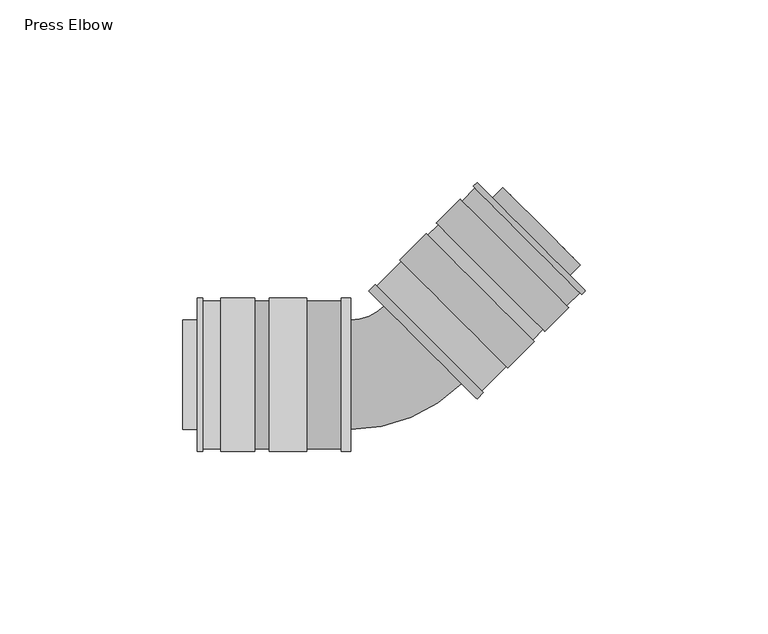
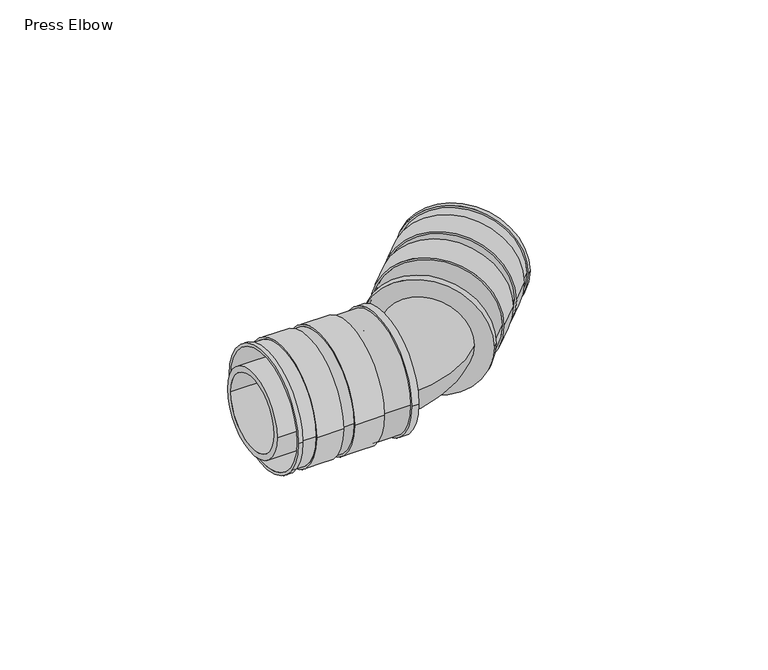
"""IFC4 building model written with IfcOpenShell, lengths in millimetres: pipe fitting geometry, Press Elbow : Superpipe Press Elbow."""

import ifcopenshell
import ifcopenshell.guid

model = None  # the IFC model being written
_history = None  # IfcOwnerHistory: only IFC2X3 demands one
_inside = {}  # id of a spatial element -> (the spatial element, [elements in it])
_under = {}  # id of a project, library or spatial element -> (it, [spatial elements below it])
_declared = {}  # id of a project -> (the project, [libraries it declares])
_typed = {}  # id of a type object -> (the type object, [elements of that type])
_made_of = {}  # id of a material, layer set ... -> (it, [elements and type objects made of it])


def new_model(schema):
    """Start an empty IFC model of exactly this schema.

    Asked for "IFC4X3", IfcOpenShell would pick the latest addendum, in which some entities
    have other attributes; the version numbers below select the first issue.
    IFC2X3 requires an IfcOwnerHistory on every rooted entity: one is made here for all.
    """
    global model, _history
    if schema == "IFC4X3":
        model = ifcopenshell.file(schema_version=(4, 3, 0, 0))
    else:
        model = ifcopenshell.file(schema=schema)
    _inside.clear()
    _under.clear()
    _declared.clear()
    _typed.clear()
    _made_of.clear()
    _history = None
    if model.schema == "IFC2X3":
        org = make("IfcOrganization", Name="unknown")
        user = make(
            "IfcPersonAndOrganization",
            ThePerson=make("IfcPerson", FamilyName="unknown"),
            TheOrganization=org,
        )
        app = make(
            "IfcApplication",
            ApplicationDeveloper=org,
            Version="unknown",
            ApplicationFullName="unknown",
            ApplicationIdentifier="unknown",
        )
        _history = make(
            "IfcOwnerHistory",
            OwningUser=user,
            OwningApplication=app,
            ChangeAction="ADDED",
            CreationDate=0,
        )
    return model


def make(cls, **values):
    """One entity of the class cls with the attributes given. An attribute that is None is left unset."""
    return model.create_entity(
        cls, **{name: value for name, value in values.items() if value is not None}
    )


def rooted(cls, **values):
    """An entity with a GlobalId (a new one), such as an element, a storey or a relation."""
    return make(cls, GlobalId=ifcopenshell.guid.new(), OwnerHistory=_history, **values)


def si_unit(unit_type, name, prefix=None):
    """IfcSIUnit, for example si_unit("LENGTHUNIT", "METRE", prefix="MILLI")."""
    return make("IfcSIUnit", UnitType=unit_type, Prefix=prefix, Name=name)


def assignment(units):
    """IfcUnitAssignment: the units of a project."""
    return None if units is None else make("IfcUnitAssignment", Units=units)


def point(xyz):
    """IfcCartesianPoint."""
    return None if xyz is None else make("IfcCartesianPoint", Coordinates=xyz)


def direction(xyz):
    """IfcDirection."""
    return None if xyz is None else make("IfcDirection", DirectionRatios=xyz)


def frame(location, z_axis=None, x_axis=None):
    """IfcAxis2Placement3D, a coordinate frame: its origin and axes. An axis left out is left unset."""
    return make(
        "IfcAxis2Placement3D",
        Location=point(location),
        Axis=direction(z_axis),
        RefDirection=direction(x_axis),
    )


def frame_2d(location, x_axis=None):
    """IfcAxis2Placement2D, a coordinate frame in the plane: its origin and x axis."""
    return make(
        "IfcAxis2Placement2D", Location=point(location), RefDirection=direction(x_axis)
    )


def origin():
    """The frame at (0, 0, 0) with its axes left unset."""
    return frame((0.0, 0.0, 0.0))


def origin_2d():
    """The frame at (0, 0) in the plane with its x axis left unset."""
    return frame_2d((0.0, 0.0))


def place(relative_to, where):
    """IfcLocalPlacement: puts the frame where relative to a parent placement (None: the world)."""
    return make(
        "IfcLocalPlacement", PlacementRelTo=relative_to, RelativePlacement=where
    )


def context(
    kind, dimensions, precision=None, world=None, true_north=None, identifier=None
):
    """IfcGeometricRepresentationContext, for example the 3D "Model" context."""
    return make(
        "IfcGeometricRepresentationContext",
        ContextIdentifier=identifier,
        ContextType=kind,
        CoordinateSpaceDimension=dimensions,
        Precision=precision,
        WorldCoordinateSystem=world,
        TrueNorth=true_north,
    )


def project(units=None, contexts=None):
    """IfcProject with its units and contexts."""
    return rooted(
        "IfcProject",
        Name="project",
        RepresentationContexts=contexts,
        UnitsInContext=assignment(units),
    )


def spatial(cls, under=None, at=None, **own):
    """A site, building, storey or space (cls), placed at a placement, below another one or the project."""
    s = rooted(cls, ObjectPlacement=at, **own)
    if under is not None:
        _under.setdefault(under.id(), (under, []))[1].append(s)
    return s


def polyline(points):
    """IfcPolyline through the points."""
    return make("IfcPolyline", Points=[point(p) for p in points])


def circle_curve(where, radius):
    """IfcCircle in the frame where."""
    return make("IfcCircle", Position=where, Radius=radius)


def ellipse_curve(where, semi_axis1, semi_axis2):
    """IfcEllipse in the frame where."""
    return make(
        "IfcEllipse", Position=where, SemiAxis1=semi_axis1, SemiAxis2=semi_axis2
    )


def trimmed(basis, trim1, trim2, sense, master):
    """IfcTrimmedCurve: the piece of a basis curve between two trims."""
    return make(
        "IfcTrimmedCurve",
        BasisCurve=basis,
        Trim1=trim1,
        Trim2=trim2,
        SenseAgreement=sense,
        MasterRepresentation=master,
    )


def segment(curve, same_sense, transition):
    """IfcCompositeCurveSegment."""
    return make(
        "IfcCompositeCurveSegment",
        Transition=transition,
        SameSense=same_sense,
        ParentCurve=curve,
    )


def composite_curve(segments, self_intersect=None):
    """IfcCompositeCurve: segments joined end to end."""
    return make("IfcCompositeCurve", Segments=segments, SelfIntersect=self_intersect)


def outline(outer, holes=None, kind="AREA"):
    """IfcArbitraryClosedProfileDef: a profile drawn as a closed curve; with holes, ...WithVoids."""
    if holes is None:
        return make("IfcArbitraryClosedProfileDef", ProfileType=kind, OuterCurve=outer)
    return make(
        "IfcArbitraryProfileDefWithVoids",
        ProfileType=kind,
        OuterCurve=outer,
        InnerCurves=holes,
    )


def extrude(swept, where, along, depth):
    """IfcExtrudedAreaSolid: the profile swept, set in the frame where, extruded along a direction by depth."""
    return make(
        "IfcExtrudedAreaSolid",
        SweptArea=swept,
        Position=where,
        ExtrudedDirection=direction(along),
        Depth=depth,
    )


def shape(context_of_items, identifier, shape_type, items):
    """IfcShapeRepresentation: the items that make up one representation, for example the "Body"."""
    return make(
        "IfcShapeRepresentation",
        ContextOfItems=context_of_items,
        RepresentationIdentifier=identifier,
        RepresentationType=shape_type,
        Items=items,
    )


def source(mapping_origin, context_of_items, identifier, shape_type, items):
    """IfcRepresentationMap: a shape defined once, which mapped items show again and again."""
    return make(
        "IfcRepresentationMap",
        MappingOrigin=mapping_origin,
        MappedRepresentation=shape(context_of_items, identifier, shape_type, items),
    )


def transform(
    local_origin,
    x_axis=None,
    y_axis=None,
    z_axis=None,
    scale=None,
    scale2=None,
    scale3=None,
    uniform=True,
):
    """IfcCartesianTransformationOperator3D, or its non-uniform kind. x_axis, y_axis, z_axis: its Axis1, 2, 3."""
    if uniform:
        return make(
            "IfcCartesianTransformationOperator3D",
            Axis1=direction(x_axis),
            Axis2=direction(y_axis),
            LocalOrigin=point(local_origin),
            Scale=scale,
            Axis3=direction(z_axis),
        )
    return make(
        "IfcCartesianTransformationOperator3DnonUniform",
        Axis1=direction(x_axis),
        Axis2=direction(y_axis),
        LocalOrigin=point(local_origin),
        Scale=scale,
        Axis3=direction(z_axis),
        Scale2=scale2,
        Scale3=scale3,
    )


def mapped(mapping_source, mapping_target):
    """IfcMappedItem: shows the shape of a source again, moved by a transform."""
    return make(
        "IfcMappedItem", MappingSource=mapping_source, MappingTarget=mapping_target
    )


def made_of(thing, what):
    """Note that an element or type object is made of a material, layer set ...; save() writes the relation."""
    if what is not None:
        _made_of.setdefault(what.id(), (what, []))[1].append(thing)
    return thing


def element(
    cls,
    number,
    at=None,
    inside=None,
    cuts=None,
    type_object=None,
    material=None,
    context=None,
    identifier="Body",
    shape_type=None,
    held_by="IfcProductDefinitionShape",
    body=None,
    shapes=None,
    **own,
):
    """One element of the class cls, such as IfcWall. Its Tag is "e" and its number.

    at: its placement. inside: the storey or other place that contains it. cuts: it is an
    opening in that element (IfcRelVoidsElement). A single representation is given by context,
    identifier, shape_type and body (its items); several are given by shapes. held_by: the class
    of the entity that holds the representations. save() writes the other relations.
    """
    e = rooted(cls, Tag="e%d" % number, ObjectPlacement=at, **own)
    if body is not None:
        shapes = [shape(context, identifier, shape_type, body)]
    if shapes is not None:
        e.Representation = make(held_by, Representations=shapes)
    if inside is not None:
        _inside.setdefault(inside.id(), (inside, []))[1].append(e)
    if cuts is not None:
        rooted(
            "IfcRelVoidsElement", RelatingBuildingElement=cuts, RelatedOpeningElement=e
        )
    if type_object is not None:
        _typed.setdefault(type_object.id(), (type_object, []))[1].append(e)
    return made_of(e, material)


def aggregate(whole, parts):
    """IfcRelAggregates: a whole, such as a stair, and the parts it consists of."""
    return rooted("IfcRelAggregates", RelatingObject=whole, RelatedObjects=parts)


def save(model, path):
    """Write the relations noted so far, then the file.

    IfcRelAggregates (storeys below a building ...), IfcRelContainedInSpatialStructure (elements
    in a storey), IfcRelDefinesByType, IfcRelAssociatesMaterial and IfcRelDeclares: one each for
    every whole, place, type object, material and project.
    """
    for whole, parts in _under.values():
        aggregate(whole, parts)
    for where, things in _inside.values():
        rooted(
            "IfcRelContainedInSpatialStructure",
            RelatedElements=things,
            RelatingStructure=where,
        )
    for kind, things in _typed.values():
        rooted("IfcRelDefinesByType", RelatedObjects=things, RelatingType=kind)
    for what, things in _made_of.values():
        rooted("IfcRelAssociatesMaterial", RelatedObjects=things, RelatingMaterial=what)
    for by, libraries in _declared.values():
        rooted("IfcRelDeclares", RelatingContext=by, RelatedDefinitions=libraries)
    model.write(path)


def plane_surface(at):
    """IfcPlane: the flat surface through the origin of the frame at, square to its z axis."""
    return make("IfcPlane", Position=at)


def cylinder_surface(at, radius):
    """IfcCylindricalSurface: all points at the distance radius from the z axis of the frame at."""
    return make("IfcCylindricalSurface", Position=at, Radius=radius)


def revolved_surface(curve, axis_point, axis_direction):
    """IfcSurfaceOfRevolution: the curve turned about the line through axis_point along axis_direction."""
    return make(
        "IfcSurfaceOfRevolution",
        SweptCurve=make("IfcArbitraryOpenProfileDef", ProfileType="CURVE", Curve=curve),
        AxisPosition=make("IfcAxis1Placement", Location=point(axis_point), Axis=direction(axis_direction)),
    )


def advanced_brep(points, edges, surfaces, faces):
    """IfcAdvancedBrep: a solid bounded by faces that lie on surfaces and meet in shared edges.

    An edge is (start, end): straight between two places in points (the first is 0);
    or (start, end, curve); or (start, end, curve, False) where it runs against its curve.
    A face is (place in surfaces, loops), or (place, loops, False) where it looks against
    its surface's normal. A loop lists edges by number (the first is 1), with a minus sign
    where the edge is run from its end to its start. The first loop is the outer one.
    """
    corners = [point(p) for p in points]
    vertices = [make("IfcVertexPoint", VertexGeometry=c) for c in corners]
    made = []
    for start, end, *more in edges:
        made.append(
            make(
                "IfcEdgeCurve",
                EdgeStart=vertices[start],
                EdgeEnd=vertices[end],
                EdgeGeometry=more[0] if more else make("IfcPolyline", Points=[corners[start], corners[end]]),
                SameSense=more[1] if len(more) > 1 else True,
            )
        )
    hull = []
    for where, loops, *sense in faces:
        bounds = []
        for j, loop in enumerate(loops):
            ring = [make("IfcOrientedEdge", EdgeElement=made[abs(k) - 1], Orientation=k > 0) for k in loop]
            bounds.append(
                make(
                    "IfcFaceOuterBound" if j == 0 else "IfcFaceBound",
                    Bound=make("IfcEdgeLoop", EdgeList=ring),
                    Orientation=True,
                )
            )
        hull.append(make("IfcAdvancedFace", Bounds=bounds, FaceSurface=surfaces[where], SameSense=sense[0] if sense else True))
    return make("IfcAdvancedBrep", Outer=make("IfcClosedShell", CfsFaces=hull))


def press_elbow_6563430a(model_context):
    return source(origin(), model_context, "Body", "SolidModel", [
        advanced_brep(
        [(-4.3854906, 24.3230447, 0.0), (24.3230447, -4.3854906, 0.0), (24.1109127, -4.1733585, 0.0), (-4.1733585, 24.1109127, 0.0), (52.7487373, 23.0502525, 0.0), (23.0502525, 52.7487373, 0.0), (52.0416306, 23.7573593, 0.0), (23.7573593, 52.0416306, 0.0), (51.6880772, 21.9895924, 0.0), (21.9895924, 51.6880772, 0.0), (31.5355339, 1.8370491, 0.0), (1.8370491, 31.5355339, 0.0), (9.0848936, 38.7833784, 0.0), (38.7833784, 9.0848936, 0.0), (41.6118055, 11.9133207, 0.0), (11.9133207, 41.6118055, 0.0), (18.4540585, 48.1525433, 0.0), (48.1525433, 18.4540585, 0.0), (31.0405592, 2.3320238, 0.0), (2.3320238, 31.0405592, 0.0), (38.2884037, 9.5798684, 0.0), (9.5798684, 38.2884037, 0.0), (41.1168308, 12.4082955, 0.0), (12.4082955, 41.1168308, 0.0), (22.4845671, 51.1931024, 0.0), (51.1931024, 22.4845671, 0.0), (18.9490332, 47.6575685, 0.0), (47.6575685, 18.9490332, 0.0)],
        [
            (0, 1, circle_curve(frame((9.9687771, 9.9687771, 0.0), z_axis=(-0.707106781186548, -0.7071067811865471, 0.0), x_axis=(-0.7071067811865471, 0.707106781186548, 0.0)), 20.3)),
            (1, 0, circle_curve(frame((9.9687771, 9.9687771, 0.0), z_axis=(-0.707106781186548, -0.7071067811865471, 0.0), x_axis=(-0.7071067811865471, 0.707106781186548, 0.0)), 20.3)),
            (2, 3, circle_curve(frame((9.9687771, 9.9687771, 0.0), z_axis=(0.7071067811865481, 0.707106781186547, 0.0), x_axis=(-0.707106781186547, 0.7071067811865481, 0.0)), 20.0)),
            (3, 2, circle_curve(frame((9.9687771, 9.9687771, 0.0), z_axis=(0.7071067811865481, 0.707106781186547, 0.0), x_axis=(-0.707106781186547, 0.7071067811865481, 0.0)), 20.0)),
            (4, 5, circle_curve(frame((37.8994949, 37.8994949, 0.0), z_axis=(0.7071067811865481, 0.707106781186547, 0.0), x_axis=(-0.707106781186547, 0.7071067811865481, 0.0)), 21.0)),
            (5, 4, circle_curve(frame((37.8994949, 37.8994949, 0.0), z_axis=(0.7071067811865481, 0.707106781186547, 0.0), x_axis=(-0.707106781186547, 0.7071067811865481, 0.0)), 21.0)),
            (6, 7, circle_curve(frame((37.8994949, 37.8994949, 0.0), z_axis=(-0.7071067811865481, -0.707106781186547, 0.0), x_axis=(-0.707106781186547, 0.7071067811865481, 0.0)), 20.0)),
            (7, 6, circle_curve(frame((37.8994949, 37.8994949, 0.0), z_axis=(-0.7071067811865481, -0.707106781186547, 0.0), x_axis=(-0.707106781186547, 0.7071067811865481, 0.0)), 20.0)),
            (4, 8),
            (8, 9, circle_curve(frame((36.8388348, 36.8388348, 0.0), z_axis=(0.7071067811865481, 0.707106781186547, 0.0), x_axis=(-0.707106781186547, 0.7071067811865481, 0.0)), 21.0)),
            (9, 5),
            (10, 11, circle_curve(frame((16.6862915, 16.6862915, 0.0), z_axis=(0.7071067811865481, 0.707106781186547, 0.0), x_axis=(-0.707106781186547, 0.7071067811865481, 0.0)), 21.0)),
            (11, 12),
            (12, 13, circle_curve(frame((23.934136, 23.934136, 0.0), z_axis=(-0.7071067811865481, -0.707106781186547, 0.0), x_axis=(-0.707106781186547, 0.7071067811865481, 0.0)), 21.0)),
            (13, 10),
            (14, 15, circle_curve(frame((26.7625631, 26.7625631, 0.0), z_axis=(0.7071067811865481, 0.707106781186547, 0.0), x_axis=(-0.707106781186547, 0.7071067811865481, 0.0)), 21.0)),
            (15, 16),
            (16, 17, circle_curve(frame((33.3033009, 33.3033009, 0.0), z_axis=(-0.7071067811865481, -0.707106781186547, 0.0), x_axis=(-0.707106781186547, 0.7071067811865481, 0.0)), 21.0)),
            (17, 14),
            (9, 8, circle_curve(frame((36.8388348, 36.8388348, 0.0), z_axis=(0.7071067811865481, 0.707106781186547, 0.0), x_axis=(-0.707106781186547, 0.7071067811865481, 0.0)), 21.0)),
            (11, 10, circle_curve(frame((16.6862915, 16.6862915, 0.0), z_axis=(0.7071067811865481, 0.707106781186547, 0.0), x_axis=(-0.707106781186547, 0.7071067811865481, 0.0)), 21.0)),
            (13, 12, circle_curve(frame((23.934136, 23.934136, 0.0), z_axis=(-0.7071067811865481, -0.707106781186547, 0.0), x_axis=(-0.707106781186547, 0.7071067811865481, 0.0)), 21.0)),
            (15, 14, circle_curve(frame((26.7625631, 26.7625631, 0.0), z_axis=(0.7071067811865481, 0.707106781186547, 0.0), x_axis=(-0.707106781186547, 0.7071067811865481, 0.0)), 21.0)),
            (17, 16, circle_curve(frame((33.3033009, 33.3033009, 0.0), z_axis=(-0.7071067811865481, -0.707106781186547, 0.0), x_axis=(-0.707106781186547, 0.7071067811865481, 0.0)), 21.0)),
            (3, 7),
            (6, 2),
            (18, 19, circle_curve(frame((16.6862915, 16.6862915, 0.0), z_axis=(0.707106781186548, 0.7071067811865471, 0.0), x_axis=(-0.7071067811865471, 0.707106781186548, 0.0)), 20.3)),
            (19, 18, circle_curve(frame((16.6862915, 16.6862915, 0.0), z_axis=(0.707106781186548, 0.7071067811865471, 0.0), x_axis=(-0.7071067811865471, 0.707106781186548, 0.0)), 20.3)),
            (18, 1),
            (0, 19),
            (20, 21, circle_curve(frame((23.934136, 23.934136, 0.0), z_axis=(-0.7071067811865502, -0.7071067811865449, 0.0), x_axis=(-0.7071067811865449, 0.7071067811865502, 0.0)), 20.3)),
            (21, 20, circle_curve(frame((23.934136, 23.934136, 0.0), z_axis=(-0.7071067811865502, -0.7071067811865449, 0.0), x_axis=(-0.7071067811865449, 0.7071067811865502, 0.0)), 20.3)),
            (22, 23, circle_curve(frame((26.7625631, 26.7625631, 0.0), z_axis=(0.7071067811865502, 0.7071067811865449, 0.0), x_axis=(-0.7071067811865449, 0.7071067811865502, 0.0)), 20.3)),
            (23, 22, circle_curve(frame((26.7625631, 26.7625631, 0.0), z_axis=(0.7071067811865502, 0.7071067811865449, 0.0), x_axis=(-0.7071067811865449, 0.7071067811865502, 0.0)), 20.3)),
            (21, 23),
            (22, 20),
            (24, 25, circle_curve(frame((36.8388348, 36.8388348, 0.0), z_axis=(0.7071067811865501, 0.707106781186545, 0.0), x_axis=(0.707106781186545, -0.7071067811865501, 0.0)), 20.3)),
            (25, 24, circle_curve(frame((36.8388348, 36.8388348, 0.0), z_axis=(0.7071067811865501, 0.707106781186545, 0.0), x_axis=(0.707106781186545, -0.7071067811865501, 0.0)), 20.3)),
            (26, 27, circle_curve(frame((33.3033009, 33.3033009, 0.0), z_axis=(-0.7071067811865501, -0.707106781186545, 0.0), x_axis=(0.707106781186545, -0.7071067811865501, 0.0)), 20.3)),
            (27, 26, circle_curve(frame((33.3033009, 33.3033009, 0.0), z_axis=(-0.7071067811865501, -0.707106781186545, 0.0), x_axis=(0.707106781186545, -0.7071067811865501, 0.0)), 20.3)),
            (25, 27),
            (26, 24),
        ],
        [
            plane_surface(frame((9.9687771, 9.9687771, 0.0), z_axis=(-0.7071067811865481, -0.707106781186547, 0.0), x_axis=(0.0, 0.0, 1.0))),
            plane_surface(frame((37.8994949, 37.8994949, 0.0), z_axis=(0.7071067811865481, 0.707106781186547, 0.0), x_axis=(0.0, 0.0, 1.0))),
            cylinder_surface(frame((9.9687771, 9.9687771, 0.0), z_axis=(-0.7071067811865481, -0.707106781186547, 0.0), x_axis=(-0.707106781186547, 0.7071067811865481, 0.0)), 21.0),
            revolved_surface(polyline([(23.757359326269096, 52.041630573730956, 0.0), (-4.173358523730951, 24.11091272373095, 0.0)]), (9.9687771, 9.9687771, 0.0), (0.7071067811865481, 0.707106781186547, 0.0)),
            plane_surface(frame((16.6862915, 16.6862915, 0.0), z_axis=(-0.707106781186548, -0.7071067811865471, 0.0), x_axis=(0.0, 0.0, 1.0))),
            cylinder_surface(frame((9.9687771, 9.9687771, 0.0), z_axis=(0.707106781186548, 0.7071067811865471, 0.0), x_axis=(-0.7071067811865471, 0.707106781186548, 0.0)), 20.3),
            plane_surface(frame((23.934136, 23.934136, 0.0), z_axis=(0.7071067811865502, 0.7071067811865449, 0.0), x_axis=(0.0, 0.0, 1.0))),
            plane_surface(frame((26.7625631, 26.7625631, 0.0), z_axis=(-0.7071067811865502, -0.7071067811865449, 0.0), x_axis=(0.0, 0.0, 1.0))),
            cylinder_surface(frame((23.934136, 23.934136, 0.0), z_axis=(0.7071067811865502, 0.7071067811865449, 0.0), x_axis=(-0.7071067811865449, 0.7071067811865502, 0.0)), 20.3),
            plane_surface(frame((36.8388348, 36.8388348, 0.0), z_axis=(-0.7071067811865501, -0.707106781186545, 0.0), x_axis=(0.0, 0.0, 1.0))),
            plane_surface(frame((33.3033009, 33.3033009, 0.0), z_axis=(0.7071067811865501, 0.707106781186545, 0.0), x_axis=(0.0, 0.0, 1.0))),
            cylinder_surface(frame((36.8388348, 36.8388348, 0.0), z_axis=(-0.7071067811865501, -0.707106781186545, 0.0), x_axis=(0.707106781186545, -0.7071067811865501, 0.0)), 20.3),
        ],
        [
            (0, [[1, 2], [3, 4]]),
            (1, [[5, 6], [7, 8]]),
            (2, [[-5, 9, 10, 11]]),
            (2, [[12, 13, 14, 15]]),
            (2, [[16, 17, 18, 19]]),
            (2, [[-6, -11, 20, -9]]),
            (2, [[21, -15, 22, -13]]),
            (2, [[23, -19, 24, -17]]),
            (3, [[-4, 25, -7, 26]]),
            (3, [[-3, -26, -8, -25]]),
            (4, [[-12, -21], [27, 28]]),
            (5, [[-27, 29, -1, 30]]),
            (5, [[-28, -30, -2, -29]]),
            (6, [[-14, -22], [31, 32]]),
            (7, [[-16, -23], [33, 34]]),
            (8, [[-32, 35, -33, 36]]),
            (8, [[-31, -36, -34, -35]]),
            (9, [[-10, -20], [37, 38]]),
            (10, [[-18, -24], [39, 40]]),
            (11, [[-38, 41, -39, 42]]),
            (11, [[-37, -42, -40, -41]]),
        ],
    ),
        advanced_brep(
        [(-14.0979797, -20.3, 0.0), (-14.0979797, 20.3, 0.0), (-14.0979797, 20.0, 0.0), (-14.0979797, -20.0, 0.0), (-53.5979797, 21.0, 0.0), (-53.5979797, -21.0, 0.0), (-53.5979797, 20.0, 0.0), (-53.5979797, -20.0, 0.0), (-52.0979797, 21.0, 0.0), (-52.0979797, -21.0, 0.0), (-33.8479797, -21.0, 0.0), (-33.8479797, 21.0, 0.0), (-23.5979797, 21.0, 0.0), (-23.5979797, -21.0, 0.0), (-37.8479797, 21.0, 0.0), (-37.8479797, -21.0, 0.0), (-47.0979797, -21.0, 0.0), (-47.0979797, 21.0, 0.0), (-33.8479797, 20.3, 0.0), (-33.8479797, -20.3, 0.0), (-37.8479797, 20.3, 0.0), (-37.8479797, -20.3, 0.0), (-52.0979797, -20.3, 0.0), (-52.0979797, 20.3, 0.0), (-47.0979797, -20.3, 0.0), (-47.0979797, 20.3, 0.0), (-23.5979797, 20.3, 0.0), (-23.5979797, -20.3, 0.0)],
        [
            (0, 1, circle_curve(frame((-14.0979797, 0.0, 0.0), z_axis=(1.0, 0.0, 0.0), x_axis=(0.0, -1.0, 0.0)), 20.3)),
            (1, 0, circle_curve(frame((-14.0979797, 0.0, 0.0), z_axis=(1.0, 0.0, 0.0), x_axis=(0.0, -1.0, 0.0)), 20.3)),
            (2, 3, circle_curve(frame((-14.0979797, 0.0, 0.0), z_axis=(-1.0, 0.0, 0.0), x_axis=(0.0, -1.0, 0.0)), 20.0)),
            (3, 2, circle_curve(frame((-14.0979797, 0.0, 0.0), z_axis=(-1.0, 0.0, 0.0), x_axis=(0.0, -1.0, 0.0)), 20.0)),
            (4, 5, circle_curve(frame((-53.5979797, 0.0, 0.0), z_axis=(-1.0, 0.0, 0.0), x_axis=(0.0, -1.0, 0.0)), 21.0)),
            (5, 4, circle_curve(frame((-53.5979797, 0.0, 0.0), z_axis=(-1.0, 0.0, 0.0), x_axis=(0.0, -1.0, 0.0)), 21.0)),
            (6, 7, circle_curve(frame((-53.5979797, 0.0, 0.0), z_axis=(1.0, 0.0, 0.0), x_axis=(0.0, -1.0, 0.0)), 20.0)),
            (7, 6, circle_curve(frame((-53.5979797, 0.0, 0.0), z_axis=(1.0, 0.0, 0.0), x_axis=(0.0, -1.0, 0.0)), 20.0)),
            (3, 7),
            (6, 2),
            (4, 8),
            (8, 9, circle_curve(frame((-52.0979797, 0.0, 0.0), z_axis=(-1.0, 0.0, 0.0), x_axis=(0.0, -1.0, 0.0)), 21.0)),
            (9, 5),
            (10, 11, circle_curve(frame((-33.8479797, 0.0, 0.0), z_axis=(1.0, 0.0, 0.0), x_axis=(0.0, -1.0, 0.0)), 21.0)),
            (11, 12),
            (12, 13, circle_curve(frame((-23.5979797, 0.0, 0.0), z_axis=(-1.0, 0.0, 0.0), x_axis=(0.0, -1.0, 0.0)), 21.0)),
            (13, 10),
            (14, 15, circle_curve(frame((-37.8479797, 0.0, 0.0), z_axis=(-1.0, 0.0, 0.0), x_axis=(0.0, -1.0, 0.0)), 21.0)),
            (15, 16),
            (16, 17, circle_curve(frame((-47.0979797, 0.0, 0.0), z_axis=(1.0, 0.0, 0.0), x_axis=(0.0, -1.0, 0.0)), 21.0)),
            (17, 14),
            (9, 8, circle_curve(frame((-52.0979797, 0.0, 0.0), z_axis=(-1.0, 0.0, 0.0), x_axis=(0.0, -1.0, 0.0)), 21.0)),
            (11, 10, circle_curve(frame((-33.8479797, 0.0, 0.0), z_axis=(1.0, 0.0, 0.0), x_axis=(0.0, -1.0, 0.0)), 21.0)),
            (13, 12, circle_curve(frame((-23.5979797, 0.0, 0.0), z_axis=(-1.0, 0.0, 0.0), x_axis=(0.0, -1.0, 0.0)), 21.0)),
            (15, 14, circle_curve(frame((-37.8479797, 0.0, 0.0), z_axis=(-1.0, 0.0, 0.0), x_axis=(0.0, -1.0, 0.0)), 21.0)),
            (17, 16, circle_curve(frame((-47.0979797, 0.0, 0.0), z_axis=(1.0, 0.0, 0.0), x_axis=(0.0, -1.0, 0.0)), 21.0)),
            (18, 19, circle_curve(frame((-33.8479797, 0.0, 0.0), z_axis=(1.0, 0.0, 0.0), x_axis=(0.0, -1.0, 0.0)), 20.3)),
            (19, 18, circle_curve(frame((-33.8479797, 0.0, 0.0), z_axis=(1.0, 0.0, 0.0), x_axis=(0.0, -1.0, 0.0)), 20.3)),
            (20, 21, circle_curve(frame((-37.8479797, 0.0, 0.0), z_axis=(-1.0, 0.0, 0.0), x_axis=(0.0, -1.0, 0.0)), 20.3)),
            (21, 20, circle_curve(frame((-37.8479797, 0.0, 0.0), z_axis=(-1.0, 0.0, 0.0), x_axis=(0.0, -1.0, 0.0)), 20.3)),
            (19, 21),
            (20, 18),
            (22, 23, circle_curve(frame((-52.0979797, 0.0, 0.0), z_axis=(-1.0, 0.0, 0.0), x_axis=(0.0, 1.0, 0.0)), 20.3)),
            (23, 22, circle_curve(frame((-52.0979797, 0.0, 0.0), z_axis=(-1.0, 0.0, 0.0), x_axis=(0.0, 1.0, 0.0)), 20.3)),
            (24, 25, circle_curve(frame((-47.0979797, 0.0, 0.0), z_axis=(1.0, 0.0, 0.0), x_axis=(0.0, 1.0, 0.0)), 20.3)),
            (25, 24, circle_curve(frame((-47.0979797, 0.0, 0.0), z_axis=(1.0, 0.0, 0.0), x_axis=(0.0, 1.0, 0.0)), 20.3)),
            (23, 25),
            (24, 22),
            (26, 27, circle_curve(frame((-23.5979797, 0.0, 0.0), z_axis=(-1.0, 0.0, 0.0), x_axis=(0.0, -1.0, 0.0)), 20.3)),
            (27, 26, circle_curve(frame((-23.5979797, 0.0, 0.0), z_axis=(-1.0, 0.0, 0.0), x_axis=(0.0, -1.0, 0.0)), 20.3)),
            (26, 1),
            (0, 27),
        ],
        [
            plane_surface(frame((-14.0979797, 0.0, 0.0), z_axis=(1.0, 0.0, 0.0), x_axis=(0.0, 0.0, 1.0))),
            plane_surface(frame((-53.5979797, 0.0, 0.0), z_axis=(-1.0, 0.0, 0.0), x_axis=(0.0, 0.0, 1.0))),
            revolved_surface(polyline([(-53.597979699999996, -20.0, 0.0), (-14.0979797, -20.0, 0.0)]), (-14.0979797, 0.0, 0.0), (-1.0, 0.0, 0.0)),
            cylinder_surface(frame((-14.0979797, 0.0, 0.0), z_axis=(1.0, 0.0, 0.0), x_axis=(0.0, -1.0, 0.0)), 21.0),
            plane_surface(frame((-33.8479797, 0.0, 0.0), z_axis=(-1.0, 0.0, 0.0), x_axis=(0.0, 0.0, 1.0))),
            plane_surface(frame((-37.8479797, 0.0, 0.0), z_axis=(1.0, 0.0, 0.0), x_axis=(0.0, 0.0, 1.0))),
            cylinder_surface(frame((-33.8479797, 0.0, 0.0), z_axis=(-1.0, 0.0, 0.0), x_axis=(0.0, -1.0, 0.0)), 20.3),
            plane_surface(frame((-52.0979797, 0.0, 0.0), z_axis=(1.0, 0.0, 0.0), x_axis=(0.0, 0.0, 1.0))),
            plane_surface(frame((-47.0979797, 0.0, 0.0), z_axis=(-1.0, 0.0, 0.0), x_axis=(0.0, 0.0, 1.0))),
            cylinder_surface(frame((-52.0979797, 0.0, 0.0), z_axis=(1.0, 0.0, 0.0), x_axis=(0.0, 1.0, 0.0)), 20.3),
            plane_surface(frame((-23.5979797, 0.0, 0.0), z_axis=(1.0, 0.0, 0.0), x_axis=(0.0, 0.0, 1.0))),
            cylinder_surface(frame((-14.0979797, 0.0, 0.0), z_axis=(-1.0, 0.0, 0.0), x_axis=(0.0, -1.0, 0.0)), 20.3),
        ],
        [
            (0, [[1, 2], [3, 4]]),
            (1, [[5, 6], [7, 8]]),
            (2, [[-4, 9, -7, 10]]),
            (2, [[-3, -10, -8, -9]]),
            (3, [[-5, 11, 12, 13]]),
            (3, [[14, 15, 16, 17]]),
            (3, [[18, 19, 20, 21]]),
            (3, [[-6, -13, 22, -11]]),
            (3, [[23, -17, 24, -15]]),
            (3, [[25, -21, 26, -19]]),
            (4, [[-14, -23], [27, 28]]),
            (5, [[-18, -25], [29, 30]]),
            (6, [[-28, 31, -29, 32]]),
            (6, [[-27, -32, -30, -31]]),
            (7, [[-12, -22], [33, 34]]),
            (8, [[-20, -26], [35, 36]]),
            (9, [[-34, 37, -35, 38]]),
            (9, [[-33, -38, -36, -37]]),
            (10, [[-16, -24], [39, 40]]),
            (11, [[-39, 41, -1, 42]]),
            (11, [[-40, -42, -2, -41]]),
        ],
    ),
        extrude(outline(composite_curve([segment(trimmed(circle_curve(origin_2d(), 15.0), [point((0.0, 15.0))], [point((0.0, -15.0))], False, "CARTESIAN"), True, "CONTINUOUS"), segment(trimmed(circle_curve(origin_2d(), 15.0), [point((0.0, -15.0))], [point((0.0, 15.0))], False, "CARTESIAN"), True, "CONTINUOUS")], self_intersect=False), holes=[composite_curve([segment(trimmed(circle_curve(origin_2d(), 13.0), [point((0.0, 13.0))], [point((0.0, -13.0))], True, "CARTESIAN"), True, "CONTINUOUS"), segment(trimmed(circle_curve(origin_2d(), 13.0), [point((0.0, -13.0))], [point((0.0, 13.0))], True, "CARTESIAN"), True, "CONTINUOUS")], self_intersect=False)]), frame((9.9687771, 9.9687771, 0.0), z_axis=(0.7071067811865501, 0.7071067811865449, 0.0), x_axis=(0.0, 0.0, 1.0)), (0.0, 0.0, 1.0), 43.5),
        extrude(outline(composite_curve([segment(trimmed(circle_curve(origin_2d(), 21.0), [point((0.0, 21.0))], [point((0.0, -21.0))], False, "CARTESIAN"), True, "CONTINUOUS"), segment(trimmed(circle_curve(origin_2d(), 21.0), [point((0.0, -21.0))], [point((0.0, 21.0))], False, "CARTESIAN"), True, "CONTINUOUS")], self_intersect=False), holes=[composite_curve([segment(trimmed(circle_curve(origin_2d(), 13.0), [point((0.0, 13.0))], [point((0.0, -13.0))], True, "CARTESIAN"), True, "CONTINUOUS"), segment(trimmed(circle_curve(origin_2d(), 13.0), [point((0.0, -13.0))], [point((0.0, 13.0))], True, "CARTESIAN"), True, "CONTINUOUS")], self_intersect=False)]), frame((8.2010101, 8.2010101, 0.0), z_axis=(0.7071067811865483, 0.7071067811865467, 0.0), x_axis=(0.0, 0.0, 1.0)), (0.0, 0.0, 1.0), 2.5),
        extrude(outline(composite_curve([segment(trimmed(circle_curve(origin_2d(), 21.0), [point((21.0, 0.0))], [point((-21.0, 0.0))], False, "CARTESIAN"), True, "CONTINUOUS"), segment(trimmed(circle_curve(origin_2d(), 21.0), [point((-21.0, 0.0))], [point((21.0, 0.0))], False, "CARTESIAN"), True, "CONTINUOUS")], self_intersect=False), holes=[composite_curve([segment(trimmed(circle_curve(origin_2d(), 13.0), [point((13.0, 0.0))], [point((-13.0, 0.0))], True, "CARTESIAN"), True, "CONTINUOUS"), segment(trimmed(circle_curve(origin_2d(), 13.0), [point((-13.0, 0.0))], [point((13.0, 0.0))], True, "CARTESIAN"), True, "CONTINUOUS")], self_intersect=False)]), frame((-14.0979797, 0.0, 0.0), z_axis=(1.0, 0.0, 0.0), x_axis=(0.0, 1.0, 0.0)), (0.0, 0.0, 1.0), 2.5),
        extrude(outline(composite_curve([segment(trimmed(circle_curve(origin_2d(), 15.0), [point((15.0, 0.0))], [point((-15.0, 0.0))], False, "CARTESIAN"), True, "CONTINUOUS"), segment(trimmed(circle_curve(origin_2d(), 15.0), [point((-15.0, 0.0))], [point((15.0, 0.0))], False, "CARTESIAN"), True, "CONTINUOUS")], self_intersect=False), holes=[composite_curve([segment(trimmed(circle_curve(origin_2d(), 13.0), [point((13.0, 0.0))], [point((-13.0, 0.0))], True, "CARTESIAN"), True, "CONTINUOUS"), segment(trimmed(circle_curve(origin_2d(), 13.0), [point((-13.0, 0.0))], [point((13.0, 0.0))], True, "CARTESIAN"), True, "CONTINUOUS")], self_intersect=False)]), frame((-57.5979797, 0.0, 0.0), z_axis=(1.0, 0.0, 0.0), x_axis=(0.0, 1.0, 0.0)), (0.0, 0.0, 1.0), 43.5),
        advanced_brep(
        [(-11.5979797, -13.0, 0.0), (-11.5979797, 13.0, 0.0), (17.3933983, -0.991378, 0.0), (-0.991378, 17.3933983, 0.0)],
        [
            (0, 1, circle_curve(frame((-11.5979797, 0.0, 0.0), z_axis=(-1.0, 0.0, 0.0), x_axis=(0.0, 1.0, 0.0)), 13.0)),
            (1, 0, circle_curve(frame((-11.5979797, 0.0, 0.0), z_axis=(-1.0, 0.0, 0.0), x_axis=(0.0, 1.0, 0.0)), 13.0)),
            (2, 3, circle_curve(frame((8.2010101, 8.2010101, 0.0), z_axis=(0.7071067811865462, 0.7071067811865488, 0.0), x_axis=(-0.7071067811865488, 0.7071067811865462, 0.0)), 13.0)),
            (3, 2, circle_curve(frame((8.2010101, 8.2010101, 0.0), z_axis=(0.7071067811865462, 0.7071067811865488, 0.0), x_axis=(-0.7071067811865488, 0.7071067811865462, 0.0)), 13.0)),
            (3, 1, circle_curve(frame((-11.5979797, 28.0, 0.0), z_axis=(0.0, 0.0, -1.0), x_axis=(0.0, -1.0, 0.0)), 15.0)),
            (0, 2, circle_curve(frame((-11.5979797, 28.0, 0.0), z_axis=(0.0, 0.0, 1.0), x_axis=(0.0, -1.0, 0.0)), 41.0)),
        ],
        [
            plane_surface(frame((-11.5979797, 0.0, 0.0), z_axis=(-1.0, 0.0, 0.0), x_axis=(0.0, 0.0, 1.0))),
            plane_surface(frame((8.2010101, 8.2010101, 0.0), z_axis=(0.7071067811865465, 0.7071067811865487, 0.0), x_axis=(0.0, 0.0, 1.0))),
            revolved_surface(trimmed(ellipse_curve(frame((-11.5979797, 0.0, 0.0), z_axis=(-1.0, 0.0, 0.0), x_axis=(0.0, 1.0, 0.0)), 13.0, 13.0), [point((-11.5979797, -13.0, 0.0))], [point((-11.5979797, 13.0, 0.0))], True, "CARTESIAN"), (-11.5979797, 28.0, 0.0), (0.0, 0.0, 1.0)),
            revolved_surface(trimmed(ellipse_curve(frame((-11.5979797, 0.0, 0.0), z_axis=(-1.0, 0.0, 0.0), x_axis=(0.0, 1.0, 0.0)), 13.0, 13.0), [point((-11.5979797, 13.0, 0.0))], [point((-11.5979797, -13.0, 0.0))], True, "CARTESIAN"), (-11.5979797, 28.0, 0.0), (0.0, 0.0, 1.0)),
        ],
        [
            (0, [[1, 2]]),
            (1, [[3, 4]]),
            (2, [[5, -1, 6, -4]]),
            (3, [[-6, -2, -5, -3]]),
        ],
    ),
        advanced_brep(
        [(-11.5979797, -15.0, 0.0), (-11.5979797, 15.0, 0.0), (18.8076118, -2.4055916, 0.0), (-2.4055916, 18.8076118, 0.0)],
        [
            (0, 1, circle_curve(frame((-11.5979797, 0.0, 0.0), z_axis=(-1.0, 0.0, 0.0), x_axis=(0.0, 1.0, 0.0)), 15.0)),
            (1, 0, circle_curve(frame((-11.5979797, 0.0, 0.0), z_axis=(-1.0, 0.0, 0.0), x_axis=(0.0, 1.0, 0.0)), 15.0)),
            (2, 3, circle_curve(frame((8.2010101, 8.2010101, 0.0), z_axis=(0.7071067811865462, 0.7071067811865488, 0.0), x_axis=(-0.7071067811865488, 0.7071067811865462, 0.0)), 15.0)),
            (3, 2, circle_curve(frame((8.2010101, 8.2010101, 0.0), z_axis=(0.7071067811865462, 0.7071067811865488, 0.0), x_axis=(-0.7071067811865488, 0.7071067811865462, 0.0)), 15.0)),
            (3, 1, circle_curve(frame((-11.5979797, 28.0, 0.0), z_axis=(0.0, 0.0, -1.0), x_axis=(0.0, -1.0, 0.0)), 13.0)),
            (0, 2, circle_curve(frame((-11.5979797, 28.0, 0.0), z_axis=(0.0, 0.0, 1.0), x_axis=(0.0, -1.0, 0.0)), 43.0)),
        ],
        [
            plane_surface(frame((-11.5979797, 0.0, 0.0), z_axis=(-1.0, 0.0, 0.0), x_axis=(0.0, 0.0, 1.0))),
            plane_surface(frame((8.2010101, 8.2010101, 0.0), z_axis=(0.7071067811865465, 0.7071067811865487, 0.0), x_axis=(0.0, 0.0, 1.0))),
            revolved_surface(trimmed(ellipse_curve(frame((-11.5979797, 0.0, 0.0), z_axis=(-1.0, 0.0, 0.0), x_axis=(0.0, 1.0, 0.0)), 15.0, 15.0), [point((-11.5979797, -15.0, 0.0))], [point((-11.5979797, 15.0, 0.0))], True, "CARTESIAN"), (-11.5979797, 28.0, 0.0), (0.0, 0.0, 1.0)),
            revolved_surface(trimmed(ellipse_curve(frame((-11.5979797, 0.0, 0.0), z_axis=(-1.0, 0.0, 0.0), x_axis=(0.0, 1.0, 0.0)), 15.0, 15.0), [point((-11.5979797, 15.0, 0.0))], [point((-11.5979797, -15.0, 0.0))], True, "CARTESIAN"), (-11.5979797, 28.0, 0.0), (0.0, 0.0, 1.0)),
        ],
        [
            (0, [[1, 2]]),
            (1, [[3, 4]]),
            (2, [[5, -1, 6, -4]]),
            (3, [[-6, -2, -5, -3]]),
        ],
    ),
    ])


if __name__ == "__main__":
    model = new_model("IFC4")
    model_context = context("Model", 3, world=origin())
    ifc_project = project(units=[si_unit("LENGTHUNIT", "METRE", prefix="MILLI")], contexts=[model_context])
    site = spatial("IfcSite", under=ifc_project)
    building = spatial("IfcBuilding", under=site)
    placement = place(None, origin())
    press_elbow_shape = press_elbow_6563430a(model_context)
    element("IfcPipeFitting", 1, ObjectType="Press Elbow : Superpipe Press Elbow", at=placement, inside=building, context=model_context, shape_type="MappedRepresentation", body=[
        mapped(press_elbow_shape, transform((0.0, 0.0, 0.0), x_axis=(1.0, 0.0, 0.0), y_axis=(0.0, 1.0, 0.0), z_axis=(0.0, 0.0, 1.0))),
    ])
    save(model, "model.ifc")
